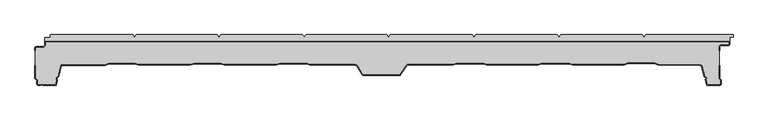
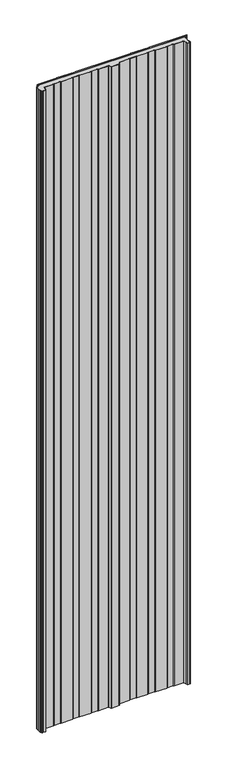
"""IFC4 building model written with IfcOpenShell, lengths in millimetres: plate geometry, Paneles-Sándwich-Madera_PAPUR-AC_Curtain-Panel : PAPUR AC 40/10."""

from ifc_helpers import new_model, si_unit, origin, origin_with_axes, place, context, project, spatial, polyline, outline, extrude, source, transform, mapped, element, save


def plate_64f30df9(model_context):
    return source(origin(), model_context, "Body", "SweptSolid", [
        extrude(outline(polyline([(-404.8923076, 8.0070037), (-402.9037044, 10.0073737), (-272.8159298, 10.0073737), (-270.8198896, 8.0070037), (-270.8198896, 6.0196231), (-268.8151898, 6.0196231), (-268.8151898, 8.0070037), (-266.8234794, 10.0073737), (-136.0114048, 10.0073737), (-134.028354, 8.0070037), (-134.028354, 6.0196231), (-132.0236542, 6.0196231), (-132.0236542, 8.0070037), (-130.027614, 10.0073737), (-0.6790135, 10.0073737), (1.3083671, 8.0070037), (1.3083671, 6.0196231), (3.3044073, 6.0196231), (3.3044073, 8.0070037), (5.3047773, 10.0073737), (136.7230247, 10.0073737), (138.7147351, 8.0070037), (138.7147351, 6.0196231), (140.7107753, 6.0196231), (140.7107753, 8.0070037), (142.7111453, 10.0073737), (272.9386962, 10.0073737), (274.9390662, 8.0070037), (274.9390662, 6.0196231), (276.9351064, 6.0196231), (276.9351064, 8.0070037), (278.9311466, 10.0073737), (409.5094118, 10.0073737), (411.5097818, 8.0070037), (411.5097818, 6.0196231), (413.4971624, 6.0196231), (413.4971624, 8.0070037), (415.4932026, 10.0073737), (555.7269333, 10.0073737), (555.7269333, 6.4959017), (550.4015009, 6.4959017), (550.4015009, 0.0), (-549.601171, 0.0), (-549.601171, 5.5984381), (-541.266524, 5.5984381), (-541.266524, 10.0073737), (-408.8887178, 10.0073737), (-406.8926776, 8.0070037), (-406.8926776, 6.0196231), (-404.8923076, 6.0196231), (-404.8923076, 8.0070037)])), origin_with_axes(), (0.0, 0.0, 1.0), 5000.0),
        extrude(outline(polyline([(-565.6618356, -10.4348305), (-564.1420739, -9.1055803), (-552.1008857, -8.9930054), (-549.9316533, -7.001295), (-549.9922705, -1.1690474), (-548.9531173, 0.0), (548.9555868, 0.0), (549.99474, -0.6538006), (549.99474, -6.0184292), (548.4489996, -7.5641697), (535.77133, -7.5641697), (533.9181733, -9.3995927), (533.9181733, -15.1889566), (533.1181733, -15.1889566), (533.1181733, -9.0659666), (535.4422099, -6.7641697), (548.1176287, -6.7641697), (549.19474, -5.6870584), (549.19474, -0.8), (-548.5938644, -0.8), (-549.1891031, -1.4696435), (-549.1279914, -7.3494661), (-551.7861577, -9.7900979), (-563.8383716, -9.9027759), (-564.8585217, -10.795044), (-564.8185043, -15.1889566), (-565.6185375, -15.1889566), (-565.6618356, -10.4348305)])), origin_with_axes(), (0.0, 0.0, 1.0), 5000.0),
        extrude(outline(polyline([(160.2961713, -39.080732), (155.0700964, -36.8595419), (110.914743, -36.8595419), (105.4418692, -39.080732), (32.9522706, -39.080732), (31.4498282, -40.0159699), (22.1450768, -54.1874223), (21.0669553, -55.2871929), (-38.4029191, -55.7721311), (-40.2907141, -54.4602001), (-48.8593986, -40.2974073), (-51.5698567, -39.080732), (-124.2066687, -39.080732), (-128.6057508, -36.8595419), (-172.432039, -36.8595419), (-178.2426376, -39.080732), (-261.7689096, -39.080732), (-267.3283795, -36.8595419), (-309.6738743, -36.8595419), (-315.8568362, -39.080732), (-399.3138314, -39.080732), (-404.2931073, -36.8595419), (-447.2231259, -36.8595419), (-453.6788654, -39.5570106), (-522.9773976, -39.6955644), (-527.4977143, -57.4131272), (-528.6234636, -58.5994938), (-530.0999272, -59.3355607), (-530.4116732, -60.262139), (-529.4850948, -62.4227118), (-529.4850948, -63.6653659), (-531.6372836, -72.0045707), (-552.0433799, -72.0045707), (-554.8231149, -71.0779924), (-557.2997634, -72.0045707), (-560.7029903, -72.0045707), (-562.8635631, -70.4025428), (-562.9285102, -63.2756835), (-565.6476279, -60.6041937), (-565.6, -39.57), (-564.7999979, -39.57), (-564.8468678, -60.2694216), (-562.1315619, -62.9371664), (-562.0672248, -69.9970874), (-560.438754, -71.2045707), (-557.4445144, -71.2045707), (-554.8384953, -70.2295916), (-551.9135578, -71.2045707), (-532.2570317, -71.2045707), (-530.2850948, -63.5637976), (-530.2850948, -62.5870188), (-531.2673442, -60.2966335), (-530.7527365, -58.767105), (-529.1066634, -57.946482), (-528.2213945, -57.0135448), (-523.5992353, -38.896806), (-453.8400488, -38.7573313), (-447.3835418, -36.0595419), (-404.1227627, -36.0595419), (-399.1434867, -38.280732), (-315.9961744, -38.280732), (-309.8132126, -36.0595419), (-267.1744807, -36.0595419), (-261.6150108, -38.280732), (-178.390332, -38.280732), (-172.5797335, -36.0595419), (-128.4152363, -36.0595419), (-124.0161542, -38.280732), (-51.3985382, -38.280732), (-48.3041085, -39.6697651), (-39.6943674, -53.9004185), (-38.1551784, -54.9700843), (20.728235, -54.4899283), (21.5191698, -53.6831114), (30.8776723, -39.4297941), (32.7236193, -38.280732), (105.2857129, -38.280732), (110.7585866, -36.0595419), (155.2330509, -36.0595419), (160.4591258, -38.280732), (242.801635, -38.280732), (247.2274638, -36.0595419), (292.6117194, -36.0595419), (298.2231469, -38.280732), (380.6626325, -38.280732), (386.4515821, -35.3754327), (429.5764659, -35.3754327), (435.4444395, -38.2812706), (503.1429943, -38.4760679), (505.4861808, -39.5321519), (510.3641127, -57.2870941), (512.9960103, -58.5999754), (513.122536, -60.5751818), (511.934239, -62.1278347), (514.154453, -70.732622), (534.8688225, -70.732622), (536.1415957, -69.4787983), (536.1415957, -63.5331272), (533.1367108, -60.7549039), (533.1367108, -39.57), (533.9367108, -39.57), (533.9367108, -60.4050226), (536.9415957, -63.1832459), (536.9415957, -69.8136893), (535.1966842, -71.532622), (513.5346688, -71.532622), (511.06235, -61.9507631), (512.3050041, -60.3270861), (512.2270676, -59.1104109), (509.6873364, -57.8435053), (504.8144411, -40.1068958), (502.9699441, -39.2755732), (435.2561206, -39.080732), (429.3892345, -36.1754327), (386.6410678, -36.1754327), (380.8521183, -39.080732), (298.0705727, -39.080732), (292.4591451, -36.8595419), (247.4169495, -36.8595419), (242.9911208, -39.080732), (160.2961713, -39.080732)])), origin_with_axes(), (0.0, 0.0, 1.0), 5000.0),
        extrude(outline(polyline([(536.139617, -63.5285564), (536.139617, -69.4742276), (534.8668439, -70.7280512), (514.1524744, -70.7280512), (511.9322604, -62.1232639), (513.1205574, -60.5706111), (512.9940317, -58.5954047), (510.3621341, -57.2825234), (505.4842022, -39.5275812), (503.1410157, -38.4714971), (435.4424609, -38.2766998), (429.5744873, -35.370862), (386.4496035, -35.370862), (380.6606539, -38.2761613), (298.2211683, -38.2761613), (292.6097408, -36.0549712), (247.2254852, -36.0549712), (242.7996564, -38.2761613), (160.4571472, -38.2761613), (155.2310723, -36.0549712), (110.756608, -36.0549712), (105.2837343, -38.2761613), (32.7216407, -38.2761613), (30.8756937, -39.4252234), (21.5171912, -53.6785406), (20.7262564, -54.4853576), (-38.157157, -54.9655136), (-39.696346, -53.8958478), (-48.3060871, -39.6651944), (-51.4005168, -38.2761613), (-124.0181328, -38.2761613), (-128.4172149, -36.0549712), (-172.5817121, -36.0549712), (-178.3923106, -38.2761613), (-261.6169894, -38.2761613), (-267.1764593, -36.0549712), (-309.8151912, -36.0549712), (-315.998153, -38.2761613), (-399.1454653, -38.2761613), (-404.1247413, -36.0549712), (-447.3855204, -36.0549712), (-453.8420274, -38.7527605), (-523.6012139, -38.8922353), (-528.2233731, -57.0089741), (-529.108642, -57.9419113), (-530.7547151, -58.7625342), (-531.2693228, -60.2920628), (-530.2870734, -62.5824481), (-530.2870734, -63.5592269), (-532.2590104, -71.2), (-551.9155364, -71.2), (-554.8404739, -70.2250208), (-557.446493, -71.2), (-560.4407326, -71.2), (-562.0692034, -69.9925166), (-562.1335405, -62.9325956), (-564.8488464, -60.2648508), (-564.8019766, -40.0), (-564.8432618, -10.795044), (-563.8231116, -9.9027759), (-551.7708977, -9.7900979), (-549.1127314, -7.3494661), (-549.1738431, -1.4696435), (-548.5786045, -0.8), (549.21, -0.8), (549.21, -5.6870584), (548.1328887, -6.7641697), (535.4574698, -6.7641697), (533.1334333, -9.0659666), (533.1334333, -60.7491322), (536.139617, -63.5285564)])), origin_with_axes(), (0.0, 0.0, 1.0), 5000.0),
    ])


if __name__ == "__main__":
    model = new_model("IFC4")
    model_context = context("Model", 3, world=origin())
    ifc_project = project(units=[si_unit("LENGTHUNIT", "METRE", prefix="MILLI")], contexts=[model_context])
    site = spatial("IfcSite", under=ifc_project)
    building = spatial("IfcBuilding", under=site)
    placement = place(None, origin())
    plate_shape = plate_64f30df9(model_context)
    element("IfcPlate", 1, ObjectType="Paneles-Sándwich-Madera_PAPUR-AC_Curtain-Panel : PAPUR AC 40/10", at=placement, inside=building, context=model_context, shape_type="MappedRepresentation", body=[
        mapped(plate_shape, transform((0.0, 0.0, 0.0), x_axis=(1.0, 0.0, 0.0), y_axis=(0.0, 1.0, 0.0), z_axis=(0.0, 0.0, 1.0))),
    ])
    save(model, "model.ifc")
